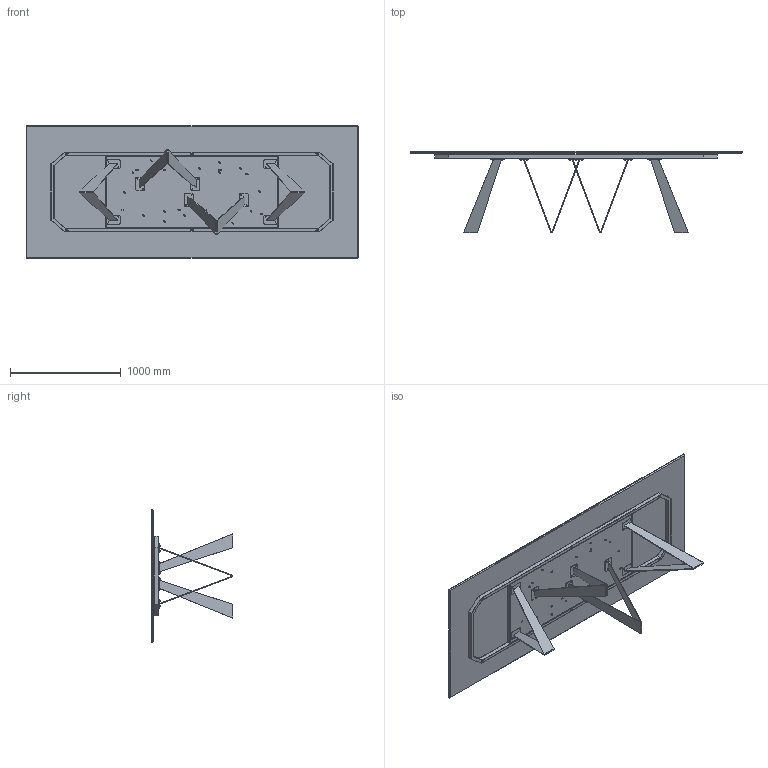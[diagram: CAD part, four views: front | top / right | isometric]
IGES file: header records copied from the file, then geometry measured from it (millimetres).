
Start section: SolidWorks IGES file using analytic representation for surfaces
Global section: file name: Y:\eforma\TECNICO\SOLIDWORKS\E-FORMA\1-TAVOLI\NOA TAVOLO\02 parts\NO24C_Noa_300x120x75h_Ceramic Rectangular.IGS; native system: SolidWorks 2022; preprocessor: SolidWorks 2022; author: eforma.tech; date: 240807.163158; units: millimetre
Bounding box: 3000 x 735.8 x 1200 mm (x, y, z)
Volume: 68571057.9 mm3; surface area: 19907836.4 mm2
Topology: 46 solids, 46 shells, 1142 faces, 2708 edges, 1628 vertices
Faces by surface type: revolution 624, plane 518
